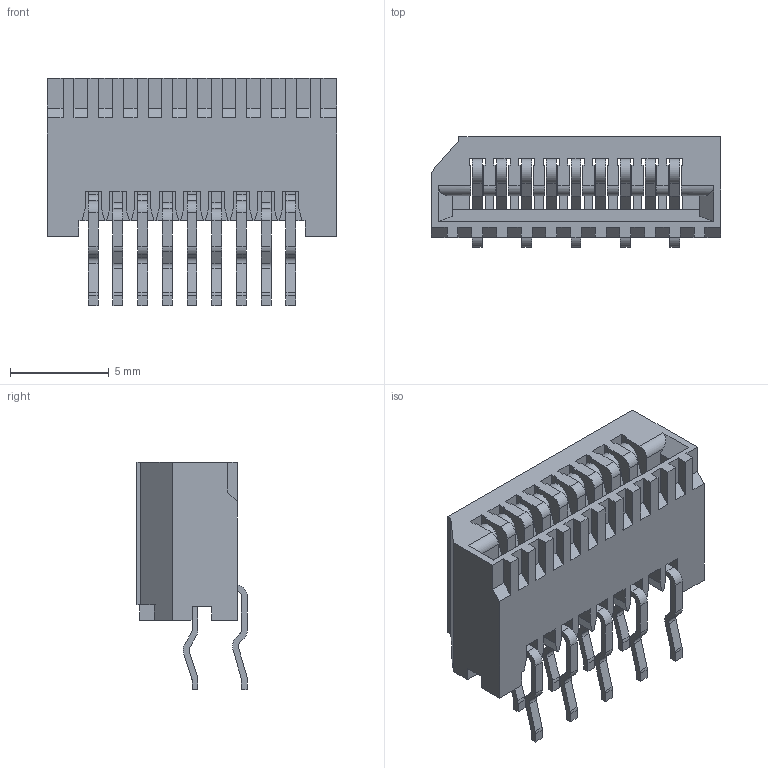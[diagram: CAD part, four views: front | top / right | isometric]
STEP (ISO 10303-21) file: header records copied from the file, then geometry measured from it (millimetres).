
FILE_DESCRIPTION((''),'2;1');
FILE_NAME('520450945','2014-07-02T',('me'),(''),'PRO/ENGINEER BY PARAMETRIC TECHNOLOGY CORPORATION, 2011490','PRO/ENGINEER BY PARAMETRIC TECHNOLOGY CORPORATION, 2011490','');
FILE_SCHEMA(('CONFIG_CONTROL_DESIGN'));
Length unit declared in the file: millimetre
Products named in the file (1): 520450945
Bounding box: 14.65 x 5.6 x 11.5 mm (x, y, z)
Volume: 378.1 mm3; surface area: 1100.9 mm2
Topology: 1 solids, 1 shells, 512 faces, 1563 edges, 1036 vertices
Faces by surface type: plane 376, cylinder 136
Entity records: 17454 total; most frequent: CARTESIAN_POINT 3107, ORIENTED_EDGE 3090, DIRECTION 2875, EDGE_CURVE 1545, VECTOR 1273, LINE 1273, VERTEX_POINT 1018, AXIS2_PLACEMENT_3D 801
